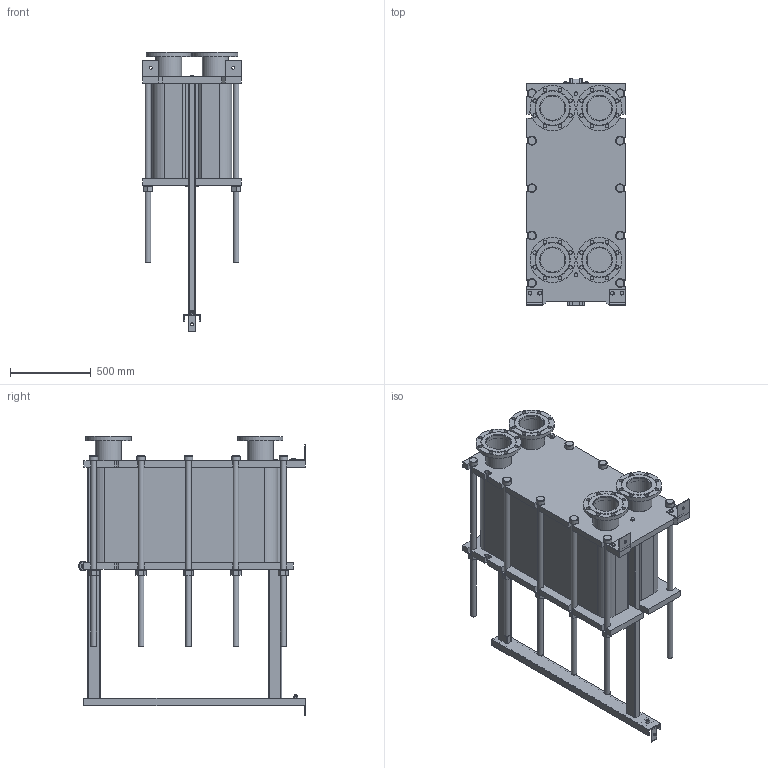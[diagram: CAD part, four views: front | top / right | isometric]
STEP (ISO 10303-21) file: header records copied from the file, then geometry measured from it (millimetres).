
FILE_DESCRIPTION(/* description */ (''),/* implementation_level */ '2;1');
FILE_NAME(/* name */ 'C:\Users\zhuro\Desktop\ENCO\TO\ЭН-041\ЭН-0,5-041-172-1.stp',/* time_stamp */ '2022-06-06T11:04:40+03:00',/* author */ ('zhuro'),/* organization */ (''),/* preprocessor_version */ 'ST-DEVELOPER v18.1',/* originating_system */ 'Autodesk Inventor 2022',/* authorisation */ '');
FILE_SCHEMA (('AUTOMOTIVE_DESIGN { 1 0 10303 214 3 1 1 }'));
Length unit declared in the file: millimetre
Products named in the file (1): ЭН-0,5-041-172-1
Bounding box: 610 x 1406.5 x 1730 mm (x, y, z)
Volume: 419283057.4 mm3; surface area: 10612052.1 mm2
Topology: 52 solids, 52 shells, 711 faces, 1696 edges, 1094 vertices
Faces by surface type: plane 487, cylinder 177, cone 41, torus 6
Full cylindrical faces by diameter (mm): 8 x4, 10 x2, 16 x8, 18 x3, 22 x32, 36 x24, 50 x1, 54 x10, 60 x12, 151 x4, 161 x8, 280 x4
Entity records: 22667 total; most frequent: CARTESIAN_POINT 5230, DIRECTION 3644, ORIENTED_EDGE 3392, EDGE_CURVE 1696, AXIS2_PLACEMENT_3D 1272, LINE 1100, VECTOR 1100, VERTEX_POINT 1094
